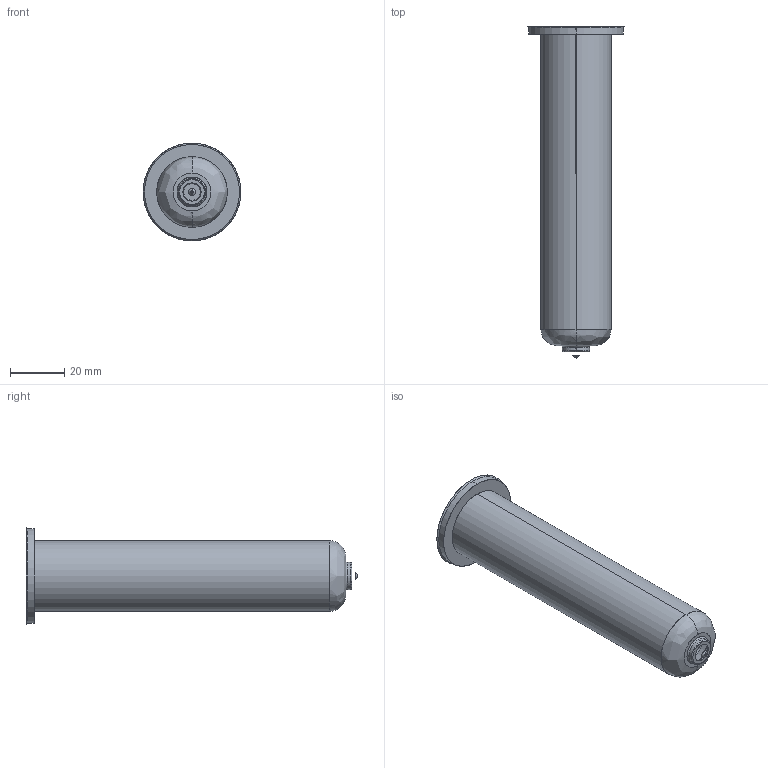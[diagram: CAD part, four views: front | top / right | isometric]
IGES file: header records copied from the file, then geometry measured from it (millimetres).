
Start section: SolidWorks IGES file using analytic representation for surfaces
Global section: file name: C:\Users\luca.EMPAD\Desktop\TEM\Sede UGEP3053-M-A C-119 L-137 Ød-1.0.IGS; native system: SolidWorks 2012; preprocessor: SolidWorks 2012; author: luca; date: 120402.151801; units: millimetre
Bounding box: 36 x 122.3 x 36 mm (x, y, z)
Surface area: 11569.9 mm2 (no closed solid volume)
Topology: 0 solids, 0 shells, 25 faces, 388 edges, 388 vertices
Faces by surface type: revolution 16, bspline 9
